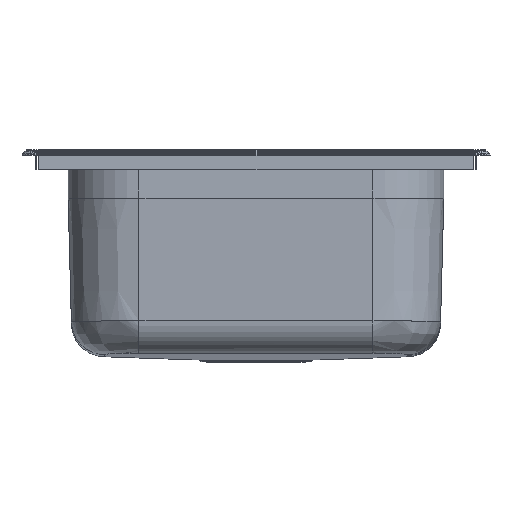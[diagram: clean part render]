
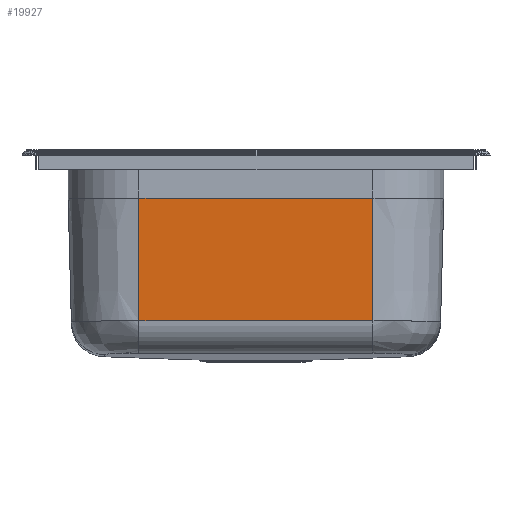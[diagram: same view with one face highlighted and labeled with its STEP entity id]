
A CAD part, left-side view. The second image highlights one B-rep face of the part: STEP entity #19927.
In plain terms, the highlighted planar face has unit normal (-1, 0, -0.026) as drawn and (-1, 0, 0.026) by its records, which use the part's own axes.
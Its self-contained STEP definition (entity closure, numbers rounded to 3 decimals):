
#18947=CARTESIAN_POINT('Vertex',(-222.27,125.,-41.021)) ;
#18974=CARTESIAN_POINT('Vertex',(-222.27,-125.,-41.021)) ;
#18977=CARTESIAN_POINT('Line Origine',(-222.27,0.,-41.021)) ;
#19885=CARTESIAN_POINT('Line Origine',(-223.969,125.,-105.87)) ;
#19889=CARTESIAN_POINT('Vertex',(-225.7,125.,-171.991)) ;
#19904=CARTESIAN_POINT('Axis2P3D Location',(-225.7,100.,-171.982)) ;
#19909=CARTESIAN_POINT('Line Origine',(-225.7,0.,-171.991)) ;
#19913=CARTESIAN_POINT('Vertex',(-225.7,-125.,-171.991)) ;
#19916=CARTESIAN_POINT('Line Origine',(-223.985,-125.,-106.509)) ;
#18978=DIRECTION('Vector Direction',(0.,1.,0.)) ;
#19886=DIRECTION('Vector Direction',(-0.026,0.,-1.)) ;
#19905=DIRECTION('Axis2P3D Direction',(-1.,0.,0.026)) ;
#19906=DIRECTION('Axis2P3D XDirection',(0.,1.,0.)) ;
#19910=DIRECTION('Vector Direction',(0.,1.,0.)) ;
#19917=DIRECTION('Vector Direction',(-0.026,0.,-1.)) ;
#19907=AXIS2_PLACEMENT_3D('Plane Axis2P3D',#19904,#19905,#19906) ;
#19922=ORIENTED_EDGE('',*,*,#19915,.T.) ;
#19923=ORIENTED_EDGE('',*,*,#19920,.F.) ;
#19924=ORIENTED_EDGE('',*,*,#18981,.T.) ;
#19925=ORIENTED_EDGE('',*,*,#19891,.T.) ;
#18979=VECTOR('Line Direction',#18978,1.) ;
#19887=VECTOR('Line Direction',#19886,1.) ;
#19911=VECTOR('Line Direction',#19910,1.) ;
#19918=VECTOR('Line Direction',#19917,1.) ;
#19927=ADVANCED_FACE('PartBody',(#19926),#19908,.T.) ;
#18981=EDGE_CURVE('',#18975,#18948,#18980,.T.) ;
#19891=EDGE_CURVE('',#18948,#19890,#19888,.T.) ;
#19915=EDGE_CURVE('',#19890,#19914,#19912,.F.) ;
#19920=EDGE_CURVE('',#18975,#19914,#19919,.T.) ;
#19921=EDGE_LOOP('',(#19922,#19923,#19924,#19925)) ;
#19926=FACE_OUTER_BOUND('',#19921,.T.) ;
#18980=LINE('Line',#18977,#18979) ;
#19888=LINE('Line',#19885,#19887) ;
#19912=LINE('Line',#19909,#19911) ;
#19919=LINE('Line',#19916,#19918) ;
#19908=PLANE('',#19907) ;
#18948=VERTEX_POINT('',#18947) ;
#18975=VERTEX_POINT('',#18974) ;
#19890=VERTEX_POINT('',#19889) ;
#19914=VERTEX_POINT('',#19913) ;
